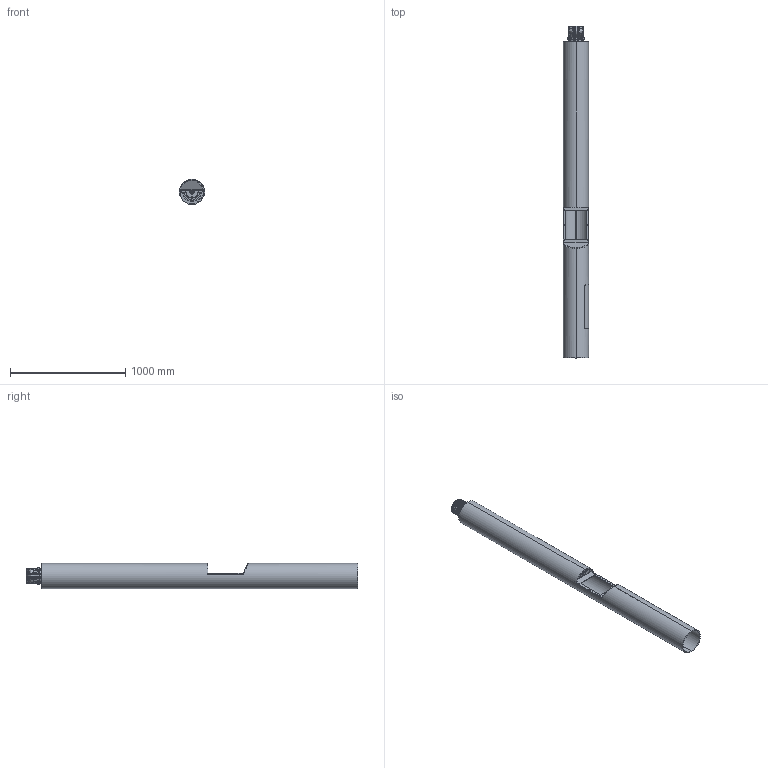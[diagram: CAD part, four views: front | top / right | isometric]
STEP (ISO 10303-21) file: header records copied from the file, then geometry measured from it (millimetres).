
FILE_DESCRIPTION (( 'STEP AP203' ), '1' );
FILE_NAME ('cad-127_CB5-s_dwg.STEP', '2019-05-03T01:48:19', ( '' ), ( '' ), 'SwSTEP 2.0', 'SolidWorks 2018', '' );
FILE_SCHEMA (( 'CONFIG_CONTROL_DESIGN' ));
Length unit declared in the file: inch
Products named in the file (1): cad-127_CB5-s_dwg
Bounding box: 219.07 x 2879.06 x 219.07 mm (x, y, z)
Volume: 12467124 mm3; surface area: 4177267.5 mm2
Topology: 22 solids, 22 shells, 1000 faces, 2683 edges, 1747 vertices
Faces by surface type: plane 434, cylinder 343, cone 147, bspline 76
Entity records: 39622 total; most frequent: CARTESIAN_POINT 15587, ORIENTED_EDGE 5318, DIRECTION 4603, EDGE_CURVE 2659, VERTEX_POINT 1747, AXIS2_PLACEMENT_3D 1699, LINE 1205, VECTOR 1205
